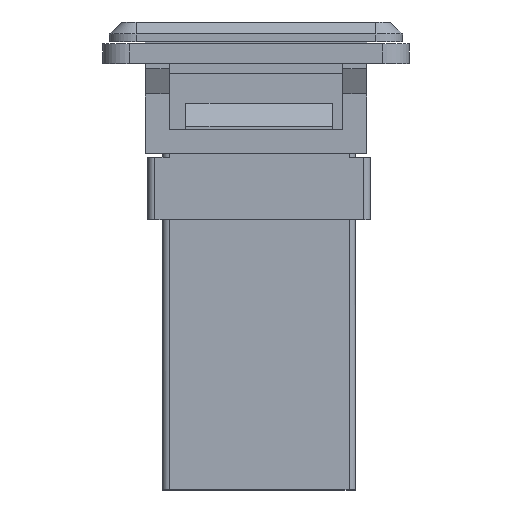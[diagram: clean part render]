
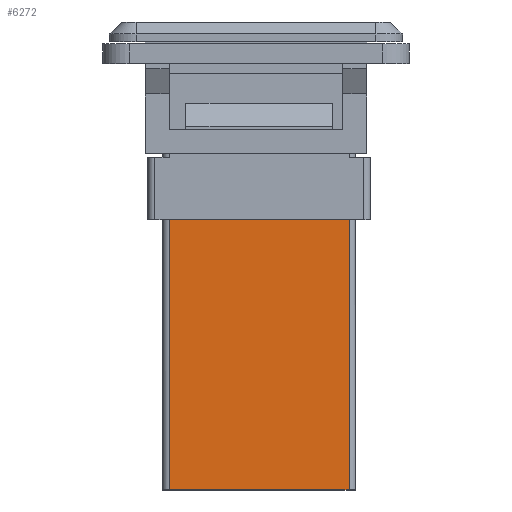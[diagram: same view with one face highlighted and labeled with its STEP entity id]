
A CAD part, left-side view. The second image highlights one B-rep face of the part: STEP entity #6272.
In plain terms, the highlighted free-form (B-spline) face has degree [1, 1] with [2, 2] control points.
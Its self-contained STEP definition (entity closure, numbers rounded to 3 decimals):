
#6272 = ADVANCED_FACE('',(#6273),#6319,.T.);
#6273 = FACE_BOUND('',#6274,.T.);
#6274 = EDGE_LOOP('',(#6275,#6288,#6299,#6310));
#6275 = ORIENTED_EDGE('',*,*,#6276,.F.);
#6276 = EDGE_CURVE('',#6277,#6279,#6281,.T.);
#6277 = VERTEX_POINT('',#6278);
#6278 = CARTESIAN_POINT('',(14.725,13.98,0.285));
#6279 = VERTEX_POINT('',#6280);
#6280 = CARTESIAN_POINT('',(35.,13.98,0.285));
#6281 = B_SPLINE_CURVE_WITH_KNOTS('',5,(#6282,#6283,#6284,#6285,#6286,
    #6287),.UNSPECIFIED.,.F.,.F.,(6,6),(0.,20.275),
  .PIECEWISE_BEZIER_KNOTS.);
#6282 = CARTESIAN_POINT('',(14.725,13.98,0.285));
#6283 = CARTESIAN_POINT('',(18.78,13.98,0.285));
#6284 = CARTESIAN_POINT('',(22.835,13.98,0.285));
#6285 = CARTESIAN_POINT('',(26.89,13.98,0.285));
#6286 = CARTESIAN_POINT('',(30.945,13.98,0.285));
#6287 = CARTESIAN_POINT('',(35.,13.98,0.285));
#6288 = ORIENTED_EDGE('',*,*,#6289,.F.);
#6289 = EDGE_CURVE('',#6290,#6277,#6292,.T.);
#6290 = VERTEX_POINT('',#6291);
#6291 = CARTESIAN_POINT('',(14.725,0.5,0.285));
#6292 = B_SPLINE_CURVE_WITH_KNOTS('',5,(#6293,#6294,#6295,#6296,#6297,
    #6298),.UNSPECIFIED.,.F.,.F.,(6,6),(0.,13.48),
  .PIECEWISE_BEZIER_KNOTS.);
#6293 = CARTESIAN_POINT('',(14.725,0.5,0.285));
#6294 = CARTESIAN_POINT('',(14.725,3.196,0.285));
#6295 = CARTESIAN_POINT('',(14.725,5.892,0.285));
#6296 = CARTESIAN_POINT('',(14.725,8.588,0.285));
#6297 = CARTESIAN_POINT('',(14.725,11.284,0.285));
#6298 = CARTESIAN_POINT('',(14.725,13.98,0.285));
#6299 = ORIENTED_EDGE('',*,*,#6300,.F.);
#6300 = EDGE_CURVE('',#6301,#6290,#6303,.T.);
#6301 = VERTEX_POINT('',#6302);
#6302 = CARTESIAN_POINT('',(35.,0.5,0.285));
#6303 = B_SPLINE_CURVE_WITH_KNOTS('',5,(#6304,#6305,#6306,#6307,#6308,
    #6309),.UNSPECIFIED.,.F.,.F.,(6,6),(0.,20.275),
  .PIECEWISE_BEZIER_KNOTS.);
#6304 = CARTESIAN_POINT('',(35.,0.5,0.285));
#6305 = CARTESIAN_POINT('',(30.945,0.5,0.285));
#6306 = CARTESIAN_POINT('',(26.89,0.5,0.285));
#6307 = CARTESIAN_POINT('',(22.835,0.5,0.285));
#6308 = CARTESIAN_POINT('',(18.78,0.5,0.285));
#6309 = CARTESIAN_POINT('',(14.725,0.5,0.285));
#6310 = ORIENTED_EDGE('',*,*,#6311,.T.);
#6311 = EDGE_CURVE('',#6301,#6279,#6312,.T.);
#6312 = B_SPLINE_CURVE_WITH_KNOTS('',5,(#6313,#6314,#6315,#6316,#6317,
    #6318),.UNSPECIFIED.,.F.,.F.,(6,6),(0.,13.48),
  .PIECEWISE_BEZIER_KNOTS.);
#6313 = CARTESIAN_POINT('',(35.,0.5,0.285));
#6314 = CARTESIAN_POINT('',(35.,3.196,0.285));
#6315 = CARTESIAN_POINT('',(35.,5.892,0.285));
#6316 = CARTESIAN_POINT('',(35.,8.588,0.285));
#6317 = CARTESIAN_POINT('',(35.,11.284,0.285));
#6318 = CARTESIAN_POINT('',(35.,13.98,0.285));
#6319 = B_SPLINE_SURFACE_WITH_KNOTS('',1,1,(
    (#6320,#6321)
    ,(#6322,#6323
    )),.UNSPECIFIED.,.F.,.F.,.F.,(2,2),(2,2),(0.,1.504),(0.,1.)
  ,.PIECEWISE_BEZIER_KNOTS.);
#6320 = CARTESIAN_POINT('',(14.725,0.5,0.285));
#6321 = CARTESIAN_POINT('',(14.725,13.98,0.285));
#6322 = CARTESIAN_POINT('',(35.,0.5,0.285));
#6323 = CARTESIAN_POINT('',(35.,13.98,0.285));
